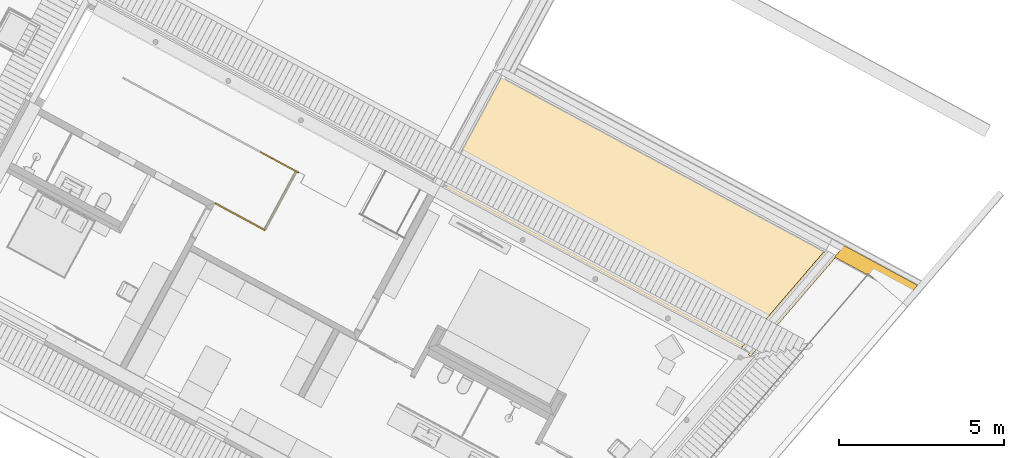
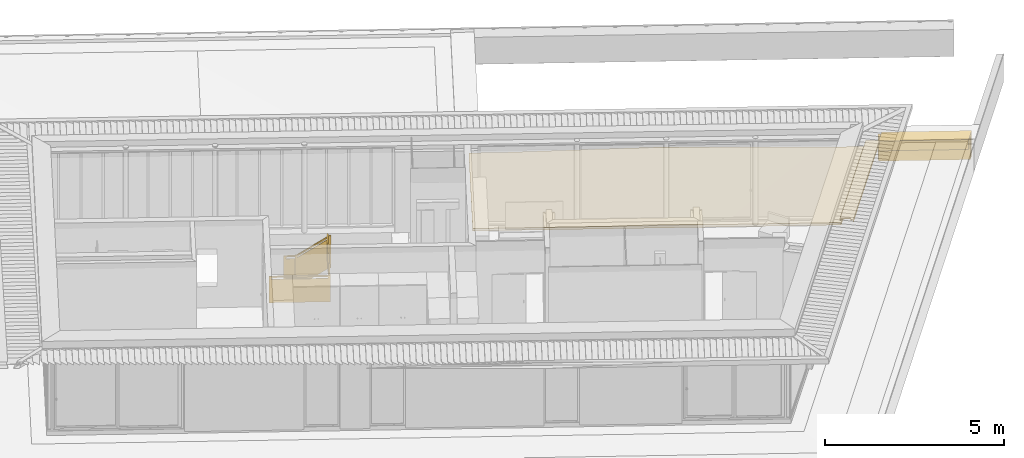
# One storey, part 13 of 41: 4 railings, 3 coverings.
"""IFC2X3 building model written with IfcOpenShell, lengths in metres."""

from ifc_helpers import new_model, entity, si_unit, converted_unit, derived_unit, money_unit, direction, frame, origin_with_axes, place, context, subcontext, project, spatial, polyline, outline, composite_profile, extrude, boolean, faceted_brep, material, material_list, type_object, element, save


model = new_model("IFC2X3")

# Units and contexts
model_context = context("Model", 3, precision=1e-05, world=origin_with_axes(), true_north=direction((0.0, 1.0)))
body_context = subcontext(model_context, "Body", "Model", "MODEL_VIEW")
ifc_project = project(units=[si_unit("LENGTHUNIT", "METRE"), si_unit("AREAUNIT", "SQUARE_METRE"), si_unit("VOLUMEUNIT", "CUBIC_METRE"), converted_unit("PLANEANGLEUNIT", "DEGREE", entity("IfcPlaneAngleMeasure", 0.0174532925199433), si_unit("PLANEANGLEUNIT", "RADIAN"), dimensions=[0, 0, 0, 0, 0, 0, 0]), money_unit("EUR"), converted_unit("TIMEUNIT", "Year", entity("IfcTimeMeasure", 31556926.0), si_unit("TIMEUNIT", "SECOND"), dimensions=[0, 0, 1, 0, 0, 0, 0]), si_unit("MASSUNIT", "GRAM", prefix="KILO"), si_unit("THERMODYNAMICTEMPERATUREUNIT", "DEGREE_CELSIUS"), si_unit("LUMINOUSINTENSITYUNIT", "LUMEN"), si_unit("ENERGYUNIT", "JOULE", prefix="MEGA"), derived_unit("THERMALCONDUCTANCEUNIT", [(si_unit("POWERUNIT", "WATT"), 1), (si_unit("LENGTHUNIT", "METRE"), -1), (si_unit("THERMODYNAMICTEMPERATUREUNIT", "KELVIN"), -1)]), derived_unit("SPECIFICHEATCAPACITYUNIT", [(si_unit("ENERGYUNIT", "JOULE"), 1), (si_unit("MASSUNIT", "GRAM", prefix="KILO"), -1), (si_unit("THERMODYNAMICTEMPERATUREUNIT", "KELVIN"), -1)]), derived_unit("MASSDENSITYUNIT", [(si_unit("MASSUNIT", "GRAM", prefix="KILO"), 1), (si_unit("VOLUMEUNIT", "CUBIC_METRE"), -1)])], contexts=[model_context])

# Site, building, storey
site_placement = place(None, frame((-3.949935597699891, 1.740105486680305, 0.0), z_axis=(0.0, 0.0, 1.0), x_axis=(0.8799804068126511, -0.475009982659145, 0.0)))
site = spatial("IfcSite", under=ifc_project, at=site_placement, Name="Gelände", CompositionType="ELEMENT")
building_placement = place(site_placement, origin_with_axes())
building = spatial("IfcBuilding", under=site, at=building_placement, Name="Gebäude", CompositionType="ELEMENT")
storey_placement = place(building_placement, frame((0.0, 0.0, 4.55), z_axis=(0.0, 0.0, 1.0), x_axis=(1.0, 0.0, 0.0)))
storey = spatial("IfcBuildingStorey", under=building, at=storey_placement, Name="Staffelgeschoss", CompositionType="ELEMENT", Elevation=4.55)

# Railings
ifc_material_1 = material(Name="Metall, Stahl lackiert")
ifc_material_2 = material(Name="Glas, Normalglas-50% durchlässig")
ifc_material_list_1 = material_list([ifc_material_1, ifc_material_1, ifc_material_1, ifc_material_1, ifc_material_1, ifc_material_2])
railing_type = type_object("IfcRailingType", Name="Geländerart", PredefinedType="NOTDEFINED")
railing_1_placement = place(storey_placement, frame((7.6330094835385, 8.87778210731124, 0.0), z_axis=(0.0, 0.0, 1.0), x_axis=(1.0, 0.0, 0.0)))
element("IfcRailing", 1, at=railing_1_placement, inside=storey, type_object=railing_type, material=ifc_material_list_1, Name="Geländer-005", PredefinedType="NOTDEFINED", context=body_context, shape_type="Brep", body=[
    faceted_brep([(5.662000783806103, 0.4398704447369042, 0.0), (5.702000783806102, 0.4398704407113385, 0.0), (5.702000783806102, 0.4398704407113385, 0.9000000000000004), (5.662000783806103, 0.4398704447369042, 0.9000000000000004), (5.662000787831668, 0.4798704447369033, 0.0), (5.702000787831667, 0.4798704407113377, 0.0), (5.702000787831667, 0.4798704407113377, 0.9000000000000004), (5.662000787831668, 0.4798704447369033, 0.9000000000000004)], [[[0, 1, 2, 3]], [[0, 4, 5, 1]], [[1, 5, 6, 2]], [[3, 2, 6, 7]], [[4, 0, 3, 7]], [[5, 4, 7, 6]]]),
    faceted_brep([(5.702000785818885, 0.4598704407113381, 0.9000000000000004), (5.702000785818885, 0.4598704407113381, 0.8600000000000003), (5.702000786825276, 0.4698704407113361, 0.8600000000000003), (5.702000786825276, 0.4698704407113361, 0.0), (5.702000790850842, 0.509870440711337, 0.0), (5.702000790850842, 0.509870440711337, 0.9000000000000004), (5.662000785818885, 0.4598704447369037, 0.9000000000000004), (5.662000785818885, 0.4598704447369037, 0.8600000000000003), (5.662000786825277, 0.4698704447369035, 0.8600000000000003), (5.662000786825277, 0.4698704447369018, 0.0), (5.662000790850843, 0.5098704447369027, 0.0), (5.662000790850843, 0.5098704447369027, 0.9000000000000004)], [[[0, 1, 2, 3, 4, 5]], [[0, 6, 7, 1]], [[1, 7, 8, 2]], [[2, 8, 9, 3]], [[4, 3, 9, 10]], [[11, 5, 4, 10]], [[6, 0, 5, 11]], [[7, 6, 11, 10, 9, 8]]]),
    faceted_brep([(5.662000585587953, -1.529722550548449, 0.0), (5.702000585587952, -1.529722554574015, 0.0), (5.702000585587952, -1.529722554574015, 0.9000000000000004), (5.662000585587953, -1.529722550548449, 0.9000000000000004), (5.662000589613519, -1.48972255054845, 0.0), (5.702000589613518, -1.489722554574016, 0.0), (5.702000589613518, -1.489722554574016, 0.9000000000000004), (5.662000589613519, -1.48972255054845, 0.9000000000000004)], [[[0, 1, 2, 3]], [[0, 4, 5, 1]], [[1, 5, 6, 2]], [[3, 2, 6, 7]], [[4, 0, 3, 7]], [[5, 4, 7, 6]]]),
    faceted_brep([(5.662000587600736, -1.50972255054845, 0.9000000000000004), (5.662000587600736, -1.50972255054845, 0.8600000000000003), (5.662000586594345, -1.519722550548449, 0.8600000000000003), (5.662000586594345, -1.519722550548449, 0.0), (5.662000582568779, -1.559722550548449, 0.0), (5.662000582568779, -1.559722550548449, 0.9000000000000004), (5.702000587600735, -1.509722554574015, 0.9000000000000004), (5.702000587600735, -1.509722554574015, 0.8600000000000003), (5.702000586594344, -1.519722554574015, 0.8600000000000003), (5.702000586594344, -1.519722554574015, 0.0), (5.702000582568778, -1.559722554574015, 0.0), (5.702000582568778, -1.559722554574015, 0.9000000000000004)], [[[0, 1, 2, 3, 4, 5]], [[0, 6, 7, 1]], [[1, 7, 8, 2]], [[2, 8, 9, 3]], [[4, 3, 9, 10]], [[11, 5, 4, 10]], [[6, 0, 5, 11]], [[7, 6, 11, 10, 9, 8]]]),
    faceted_brep([(5.662000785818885, 0.4598704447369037, 0.9000000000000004), (5.662000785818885, 0.4598704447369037, 0.8600000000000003), (5.662000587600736, -1.50972255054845, 0.8600000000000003), (5.662000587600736, -1.50972255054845, 0.9000000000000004), (5.702000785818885, 0.4598704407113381, 0.9000000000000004), (5.702000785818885, 0.4598704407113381, 0.8600000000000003), (5.702000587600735, -1.509722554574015, 0.8600000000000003), (5.702000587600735, -1.509722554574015, 0.9000000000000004)], [[[0, 1, 2, 3]], [[0, 4, 5, 1]], [[1, 5, 6, 2]], [[3, 2, 6, 7]], [[4, 0, 3, 7]], [[5, 4, 7, 6]]]),
    faceted_brep([(5.692000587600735, -1.509722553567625, 0.0), (5.692000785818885, 0.4598704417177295, 0.0), (5.692000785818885, 0.4598704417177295, 0.8000000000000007), (5.692000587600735, -1.509722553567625, 0.8000000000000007), (5.672000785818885, 0.4598704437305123, 0.0), (5.672000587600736, -1.509722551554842, 0.0), (5.672000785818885, 0.4598704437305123, 0.8000000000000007), (5.672000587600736, -1.509722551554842, 0.8000000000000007)], [[[0, 1, 2, 3]], [[4, 1, 0, 5]], [[6, 2, 1, 4]], [[3, 2, 6, 7]], [[0, 3, 7, 5]], [[6, 4, 5, 7]]]),
])
ifc_material_3 = material(Name="Glas, Normalglas")
ifc_material_list_2 = material_list([ifc_material_1, ifc_material_1, ifc_material_1, ifc_material_1, ifc_material_1, ifc_material_3])
railing_2_placement = place(storey_placement, frame((11.89277090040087, 1.656058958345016, 0.0), z_axis=(0.0, 0.0, 1.0), x_axis=(0.0, 1.0, 0.0)))
element("IfcRailing", 2, at=railing_2_placement, inside=storey, type_object=railing_type, material=ifc_material_list_2, Name="Geländer-005", PredefinedType="NOTDEFINED", context=body_context, shape_type="Brep", body=[
    faceted_brep([(5.662000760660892, 0.2098882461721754, 0.0), (5.702000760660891, 0.2098882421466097, 0.0), (5.702000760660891, 0.2098882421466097, 0.9000000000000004), (5.662000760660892, 0.2098882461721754, 0.9000000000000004), (5.662000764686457, 0.2498882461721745, 0.0), (5.702000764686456, 0.2498882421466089, 0.0), (5.702000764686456, 0.2498882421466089, 0.9000000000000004), (5.662000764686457, 0.2498882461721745, 0.9000000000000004)], [[[0, 1, 2, 3]], [[0, 4, 5, 1]], [[1, 5, 6, 2]], [[3, 2, 6, 7]], [[4, 0, 3, 7]], [[5, 4, 7, 6]]]),
    faceted_brep([(5.702000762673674, 0.2298882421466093, 0.9000000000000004), (5.702000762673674, 0.2298882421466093, 0.8600000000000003), (5.702000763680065, 0.2398882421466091, 0.8600000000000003), (5.702000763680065, 0.2398882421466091, 0.0), (5.702000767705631, 0.2798882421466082, 0.0), (5.702000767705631, 0.2798882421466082, 0.9000000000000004), (5.662000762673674, 0.229888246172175, 0.9000000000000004), (5.662000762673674, 0.229888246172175, 0.8600000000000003), (5.662000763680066, 0.239888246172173, 0.8600000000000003), (5.662000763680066, 0.239888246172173, 0.0), (5.662000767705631, 0.2798882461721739, 0.0), (5.662000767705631, 0.2798882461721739, 0.9000000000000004)], [[[0, 1, 2, 3, 4, 5]], [[0, 6, 7, 1]], [[1, 7, 8, 2]], [[2, 8, 9, 3]], [[4, 3, 9, 10]], [[11, 5, 4, 10]], [[6, 0, 5, 11]], [[7, 6, 11, 10, 9, 8]]]),
    faceted_brep([(5.662000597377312, -1.412577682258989, 0.0), (5.702000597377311, -1.412577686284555, 0.0), (5.702000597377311, -1.412577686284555, 0.9000000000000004), (5.662000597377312, -1.412577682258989, 0.9000000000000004), (5.662000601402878, -1.37257768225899, 0.0), (5.702000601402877, -1.372577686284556, 0.0), (5.702000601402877, -1.372577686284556, 0.9000000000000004), (5.662000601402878, -1.37257768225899, 0.9000000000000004)], [[[0, 1, 2, 3]], [[0, 4, 5, 1]], [[1, 5, 6, 2]], [[3, 2, 6, 7]], [[4, 0, 3, 7]], [[5, 4, 7, 6]]]),
    faceted_brep([(5.662000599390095, -1.39257768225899, 0.9000000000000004), (5.662000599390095, -1.39257768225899, 0.8600000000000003), (5.662000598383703, -1.40257768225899, 0.8600000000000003), (5.662000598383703, -1.40257768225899, 0.0), (5.662000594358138, -1.442577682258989, 0.0), (5.662000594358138, -1.442577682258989, 0.9000000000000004), (5.702000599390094, -1.392577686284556, 0.9000000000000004), (5.702000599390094, -1.392577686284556, 0.8600000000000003), (5.702000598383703, -1.402577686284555, 0.8600000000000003), (5.702000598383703, -1.402577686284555, 0.0), (5.702000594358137, -1.442577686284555, 0.0), (5.702000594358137, -1.442577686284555, 0.9000000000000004)], [[[0, 1, 2, 3, 4, 5]], [[0, 6, 7, 1]], [[1, 7, 8, 2]], [[2, 8, 9, 3]], [[4, 3, 9, 10]], [[11, 5, 4, 10]], [[6, 0, 5, 11]], [[7, 6, 11, 10, 9, 8]]]),
    faceted_brep([(5.662000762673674, 0.229888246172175, 0.9000000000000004), (5.662000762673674, 0.229888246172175, 0.8600000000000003), (5.662000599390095, -1.39257768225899, 0.8600000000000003), (5.662000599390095, -1.39257768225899, 0.9000000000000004), (5.702000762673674, 0.2298882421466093, 0.9000000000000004), (5.702000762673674, 0.2298882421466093, 0.8600000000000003), (5.702000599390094, -1.392577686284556, 0.8600000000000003), (5.702000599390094, -1.392577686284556, 0.9000000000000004)], [[[0, 1, 2, 3]], [[0, 4, 5, 1]], [[1, 5, 6, 2]], [[3, 2, 6, 7]], [[4, 0, 3, 7]], [[5, 4, 7, 6]]]),
    faceted_brep([(5.692000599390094, -1.392577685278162, 0.0), (5.692000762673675, 0.2298882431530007, 0.0), (5.692000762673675, 0.2298882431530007, 0.8000000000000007), (5.692000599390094, -1.392577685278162, 0.8000000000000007), (5.672000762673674, 0.2298882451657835, 0.0), (5.672000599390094, -1.39257768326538, 0.0), (5.672000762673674, 0.2298882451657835, 0.8000000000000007), (5.672000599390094, -1.39257768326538, 0.8000000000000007)], [[[0, 1, 2, 3]], [[4, 1, 0, 5]], [[6, 2, 1, 4]], [[3, 2, 6, 7]], [[0, 3, 7, 5]], [[6, 4, 5, 7]]]),
])
railing_3_placement = place(storey_placement, frame((12.13697142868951, 9.357849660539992, -0.9200000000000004), z_axis=(0.0, 0.0, 1.0), x_axis=(1.0, 0.0, 0.0)))
element("IfcRailing", 3, at=railing_3_placement, inside=storey, type_object=railing_type, material=ifc_material_list_1, Name="Geländer-005", PredefinedType="NOTDEFINED", context=body_context, shape_type="Brep", body=[
    faceted_brep([(0.02000085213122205, -0.01999914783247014, 0.0), (0.01999914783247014, 0.02000085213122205, 0.0), (0.01999914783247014, 0.02000085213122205, 1.1), (0.02000085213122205, -0.01999914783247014, 1.1), (-0.01999914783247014, -0.02000085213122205, 0.0), (-0.02000085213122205, 0.01999914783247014, 0.0), (-0.02000085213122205, 0.01999914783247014, 1.1), (-0.01999914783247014, -0.02000085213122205, 1.1)], [[[0, 1, 2, 3]], [[0, 4, 5, 1]], [[1, 5, 6, 2]], [[3, 2, 6, 7]], [[4, 0, 3, 7]], [[5, 4, 7, 6]]]),
    faceted_brep([(-8.521493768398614e-07, 0.01999999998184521, 1.1), (-8.521493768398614e-07, 0.01999999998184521, 1.06), (-0.01000085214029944, 0.01999957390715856, 1.06), (-0.01000085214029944, 0.01999957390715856, 0.0), (-0.05000085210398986, 0.01999786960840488, 0.0), (-0.05000085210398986, 0.01999786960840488, 1.1), (8.521493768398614e-07, -0.01999999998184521, 1.1), (8.521493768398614e-07, -0.01999999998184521, 1.06), (-0.009999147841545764, -0.02000042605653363, 1.06), (-0.009999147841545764, -0.02000042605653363, 0.0), (-0.04999914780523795, -0.02000213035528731, 0.0), (-0.04999914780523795, -0.02000213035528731, 1.1)], [[[0, 1, 2, 3, 4, 5]], [[0, 6, 7, 1]], [[1, 7, 8, 2]], [[2, 8, 9, 3]], [[4, 3, 9, 10]], [[11, 5, 4, 10]], [[6, 0, 5, 11]], [[7, 6, 11, 10, 9, 8]]]),
    faceted_brep([(0.3122272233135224, -0.01998669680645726, 0.0), (0.3122255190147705, 0.02001330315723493, 0.0), (0.3122255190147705, 0.02001330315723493, 1.1), (0.3122272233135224, -0.01998669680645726, 1.1), (0.2722272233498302, -0.01998840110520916, 0.0), (0.2722255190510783, 0.02001159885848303, 0.0), (0.2722255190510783, 0.02001159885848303, 1.1), (0.2722272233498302, -0.01998840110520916, 1.1)], [[[0, 1, 2, 3]], [[0, 4, 5, 1]], [[1, 5, 6, 2]], [[3, 2, 6, 7]], [[4, 0, 3, 7]], [[5, 4, 7, 6]]]),
    faceted_brep([(0.2922272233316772, -0.01998754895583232, 1.1), (0.2922272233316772, -0.01998754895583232, 1.06), (0.3022272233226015, -0.01998712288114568, 1.06), (0.3022272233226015, -0.01998712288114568, 0.0), (0.342227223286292, -0.019985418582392, 0.0), (0.342227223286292, -0.019985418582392, 1.1), (0.2922255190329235, 0.02001245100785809, 1.1), (0.2922255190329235, 0.02001245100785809, 1.06), (0.3022255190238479, 0.02001287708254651, 1.06), (0.3022255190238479, 0.02001287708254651, 0.0), (0.3422255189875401, 0.02001458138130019, 0.0), (0.3422255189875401, 0.02001458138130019, 1.1)], [[[0, 1, 2, 3, 4, 5]], [[0, 6, 7, 1]], [[1, 7, 8, 2]], [[2, 8, 9, 3]], [[4, 3, 9, 10]], [[11, 5, 4, 10]], [[6, 0, 5, 11]], [[7, 6, 11, 10, 9, 8]]]),
    faceted_brep([(8.521493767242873e-07, -0.01999999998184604, 1.1), (8.521493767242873e-07, -0.01999999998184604, 1.06), (0.2922272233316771, -0.01998754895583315, 1.06), (0.2922272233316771, -0.01998754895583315, 1.1), (-8.521493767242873e-07, 0.01999999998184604, 1.1), (-8.521493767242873e-07, 0.01999999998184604, 1.06), (0.2922255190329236, 0.02001245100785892, 1.06), (0.2922255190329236, 0.02001245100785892, 1.1)], [[[0, 1, 2, 3]], [[0, 4, 5, 1]], [[1, 5, 6, 2]], [[3, 2, 6, 7]], [[4, 0, 3, 7]], [[5, 4, 7, 6]]]),
    faceted_brep([(0.2922259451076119, 0.01001245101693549, 0.0), (-4.260746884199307e-07, 0.009999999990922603, 0.0), (-4.260746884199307e-07, 0.009999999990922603, 0.9999999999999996), (0.2922259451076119, 0.01001245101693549, 0.9999999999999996), (4.260746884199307e-07, -0.00999999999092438, 0.0), (0.2922267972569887, -0.009987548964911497, 0.0), (4.260746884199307e-07, -0.00999999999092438, 0.9999999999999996), (0.2922267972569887, -0.009987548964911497, 0.9999999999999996)], [[[0, 1, 2, 3]], [[4, 1, 0, 5]], [[6, 2, 1, 4]], [[3, 2, 6, 7]], [[0, 3, 7, 5]], [[6, 4, 5, 7]]]),
])
railing_4_placement = place(storey_placement, frame((12.20061858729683, 9.357791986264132, -0.8980000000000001), z_axis=(0.0, 0.0, 1.0), x_axis=(1.0, 0.0, 0.0)))
element("IfcRailing", 4, at=railing_4_placement, inside=storey, type_object=railing_type, material=ifc_material_list_1, Name="Geländer-005", PredefinedType="NOTDEFINED", context=body_context, shape_type="Brep", body=[
    faceted_brep([(0.268580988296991, -0.01999907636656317, 0.01404279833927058), (0.2685791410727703, 0.02000092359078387, 0.01404279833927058), (0.2685791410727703, 0.02000092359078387, 1.114042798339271), (0.268580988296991, -0.01999907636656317, 1.114042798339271), (0.2285809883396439, -0.02000092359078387, -0.01404279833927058), (0.2285791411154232, 0.01999907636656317, -0.01404279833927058), (0.2285791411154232, 0.01999907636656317, 1.085957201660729), (0.2285809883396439, -0.02000092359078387, 1.085957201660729)], [[[0, 1, 2, 3]], [[0, 4, 5, 1]], [[1, 5, 6, 2]], [[3, 2, 6, 7]], [[4, 0, 3, 7]], [[5, 4, 7, 6]]]),
    faceted_brep([(0.2485791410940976, 0.01999999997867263, 1.1), (0.2612195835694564, 0.02000058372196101, 1.06), (0.2385791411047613, 0.0199995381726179, 1.06), (0.2385791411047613, 0.0199995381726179, 0.0), (0.1985791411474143, 0.01999769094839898, 0.0), (0.1985791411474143, 0.01999769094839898, 1.1), (0.2485809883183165, -0.01999999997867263, 1.1), (0.2612214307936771, -0.01999941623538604, 1.06), (0.238580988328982, -0.02000046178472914, 1.06), (0.238580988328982, -0.02000046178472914, 0.0), (0.198580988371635, -0.02000230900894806, 0.0), (0.198580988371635, -0.02000230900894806, 1.1)], [[[0, 1, 2, 3, 4, 5]], [[0, 6, 7, 1]], [[1, 7, 8, 2]], [[2, 8, 9, 3]], [[4, 3, 9, 10]], [[11, 5, 4, 10]], [[6, 0, 5, 11]], [[7, 6, 11, 10, 9, 8]]]),
    faceted_brep([(1.17772287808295, -0.01995709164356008, 0.6523876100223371), (1.177721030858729, 0.02004290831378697, 0.6523876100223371), (1.177721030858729, 0.02004290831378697, 1.752387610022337), (1.17772287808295, -0.01995709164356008, 1.752387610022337), (1.137722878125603, -0.01995893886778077, 0.6243020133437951), (1.137721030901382, 0.02004106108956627, 0.6243020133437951), (1.137721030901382, 0.02004106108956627, 1.724302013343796), (1.137722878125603, -0.01995893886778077, 1.724302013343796)], [[[0, 1, 2, 3]], [[0, 4, 5, 1]], [[1, 5, 6, 2]], [[3, 2, 6, 7]], [[4, 0, 3, 7]], [[5, 4, 7, 6]]]),
    faceted_brep([(1.157722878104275, -0.01995801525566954, 1.738344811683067), (1.170363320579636, -0.01995743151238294, 1.698344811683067), (1.167722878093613, -0.01995755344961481, 1.698344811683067), (1.167722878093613, -0.01995755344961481, 0.6383448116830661), (1.20772287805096, -0.01995570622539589, 0.6383448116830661), (1.20772287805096, -0.01995570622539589, 1.738344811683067), (1.157721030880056, 0.02004198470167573, 1.738344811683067), (1.170361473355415, 0.0200425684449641, 1.698344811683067), (1.167721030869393, 0.02004244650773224, 1.698344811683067), (1.167721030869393, 0.02004244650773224, 0.6383448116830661), (1.20772103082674, 0.02004429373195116, 0.6383448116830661), (1.20772103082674, 0.02004429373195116, 1.738344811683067)], [[[0, 1, 2, 3, 4, 5]], [[0, 6, 7, 1]], [[1, 7, 8, 2]], [[2, 8, 9, 3]], [[4, 3, 9, 10]], [[11, 5, 4, 10]], [[6, 0, 5, 11]], [[7, 6, 11, 10, 9, 8]]]),
    faceted_brep([(0.2485809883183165, -0.01999999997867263, 1.1), (0.2612214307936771, -0.01999941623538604, 1.06), (1.170363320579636, -0.01995743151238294, 1.698344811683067), (1.157722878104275, -0.01995801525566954, 1.738344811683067), (0.2485791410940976, 0.01999999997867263, 1.1), (0.2612195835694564, 0.02000058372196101, 1.06), (1.170361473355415, 0.0200425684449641, 1.698344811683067), (1.157721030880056, 0.02004198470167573, 1.738344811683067)], [[[0, 1, 2, 3]], [[0, 4, 5, 1]], [[1, 5, 6, 2]], [[3, 2, 6, 7]], [[4, 0, 3, 7]], [[5, 4, 7, 6]]]),
    faceted_brep([(1.157721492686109, 0.01004198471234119, 0.6383448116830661), (0.2485796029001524, 0.009999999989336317, 0.0), (0.2485796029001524, 0.009999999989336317, 0.9999999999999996), (1.157721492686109, 0.01004198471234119, 1.638344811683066), (0.2485805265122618, -0.009999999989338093, 0.0), (1.15772241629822, -0.00995801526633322, 0.6383448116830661), (0.2485805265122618, -0.009999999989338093, 0.9999999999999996), (1.15772241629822, -0.00995801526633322, 1.638344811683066)], [[[0, 1, 2, 3]], [[4, 1, 0, 5]], [[6, 2, 1, 4]], [[3, 2, 6, 7]], [[0, 3, 7, 5]], [[6, 4, 5, 7]]]),
])

# Coverings
ifc_material_4 = material(Name="Dämmung, hart Mineralwolle")
covering_type_1 = type_object("IfcCoveringType", Name="Dämmung, hart Mineralwolle", PredefinedType="INSULATION")
covering_1_placement = place(storey_placement, frame((17.42749037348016, 11.03780067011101, -0.2599999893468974), z_axis=(0.0, 0.0, 1.0), x_axis=(1.0, 0.0, 0.0)))
element("IfcCovering", 5, at=covering_1_placement, inside=storey, type_object=covering_type_1, material=ifc_material_4, Name="Freifläche-005", PredefinedType="INSULATION", context=body_context, shape_type="Brep", body=[
    faceted_brep([(5.385245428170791, 0.0, 0.1159999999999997), (6.985245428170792, 0.0, 0.08399999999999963), (5.385245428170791, 3.785245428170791, 0.1159999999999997), (10.32187076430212, 0.0, 0.0), (10.32187076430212, 0.0, 0.08399999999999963), (3.785245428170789, 0.0, 0.08399999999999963), (0.0, 0.0, 0.08399999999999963), (0.0, 0.0, 0.0), (9.770490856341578, 3.785245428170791, 0.01999999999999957), (11.14870601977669, 3.785245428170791, 0.0), (11.14870601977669, 3.785245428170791, 0.01999999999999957), (11.03948783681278, 3.285245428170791, 0.01999999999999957), (10.27049085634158, 3.285245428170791, 0.01999999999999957), (0.0, 2.785245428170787, 0.01999999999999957), (0.0, 3.785245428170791, 0.01999999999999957), (0.0, 3.785245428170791, 0.0), (1.0, 3.785245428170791, 0.01999999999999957)], [[[0, 1, 2]], [[3, 4, 1, 0, 5, 6, 7]], [[8, 2, 1]], [[0, 2, 5]], [[9, 10, 11, 4, 3]], [[4, 11, 12, 1]], [[6, 5, 13]], [[7, 6, 13, 14, 15]], [[15, 9, 3, 7]], [[15, 14, 16, 2, 8, 10, 9]], [[8, 1, 12]], [[2, 16, 5]], [[10, 8, 12, 11]], [[13, 5, 16]], [[14, 13, 16]]]),
])
ifc_material_5 = material(Name="_SIWH - Dämmung, weich Mineralwolle")
ifc_material_6 = material(Name="_SIWH - Dämmung, hart Mineralwolle")
ifc_material_list_3 = material_list([ifc_material_5, ifc_material_6])
covering_type_2 = type_object("IfcCoveringType", Name="_SIWH - Attika1 AchseB EG 440 x 865", PredefinedType="INSULATION")
covering_2_placement = place(storey_placement, frame((28.90394795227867, 15.0830461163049, -0.3999999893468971), z_axis=(0.0, 0.0, 1.0), x_axis=(1.0, 0.0, 0.0)))
element("IfcCovering", 6, at=covering_2_placement, inside=storey, type_object=covering_type_2, material=ifc_material_list_3, Name="A-Wand059", PredefinedType="INSULATION", context=body_context, shape_type="CSG", body=[
    boolean("DIFFERENCE", boolean("DIFFERENCE", boolean("DIFFERENCE", extrude(composite_profile([outline(polyline([(4.999215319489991e-09, 0.2749999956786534), (4.999215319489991e-09, -0.5300000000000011), (0.1800000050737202, -0.5300000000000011), (0.1800000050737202, 0.2749999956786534), (4.999215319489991e-09, 0.2749999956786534)])), outline(polyline([(-0.2000000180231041, 0.0), (-0.2000000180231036, 0.2749999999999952), (4.999215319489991e-09, 0.2749999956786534), (0.1799999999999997, 0.2749999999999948), (0.1799999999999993, 0.3349999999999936), (-0.2600000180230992, 0.334999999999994), (-0.2600000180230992, 0.0), (-0.2000000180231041, 0.0)]))]), frame((0.0, 0.0, 0.0), z_axis=(1.0, 0.0, 0.0), x_axis=(0.0, 1.0, 0.0)), (0.0, 0.0, 1.0), 2.623436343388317), faceted_brep([(0.0, -0.2600000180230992, 0.3349999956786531), (0.0960997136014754, 0.1799999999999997, 0.3349999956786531), (0.0, 0.1799999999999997, 0.3349999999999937), (0.0960997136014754, 0.1799999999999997, 0.2749999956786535), (0.0, -0.2600000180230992, 0.2749999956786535), (0.01310450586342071, -0.2000000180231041, 0.2749999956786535), (0.05678619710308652, 4.99921526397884e-09, 0.2749999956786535), (0.0, 0.1799999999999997, 0.274999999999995), (0.0, 4.99921526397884e-09, 0.2749999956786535), (0.0, -0.2000000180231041, 0.2749999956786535)], [[[0, 1, 2]], [[3, 1, 0, 4, 5, 6]], [[1, 3, 7, 2]], [[4, 0, 2, 7, 8, 9]], [[9, 5, 4]], [[5, 9, 8, 6]], [[3, 6, 8, 7]]])), faceted_brep([(2.619068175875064, 0.1800000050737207, -0.5300000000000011), (2.619068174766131, 0.1799999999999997, 0.2749999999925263), (2.623436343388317, 0.1800000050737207, 0.2749999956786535), (2.623436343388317, 0.1800000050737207, -0.5300000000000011), (2.579754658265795, 4.99921526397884e-09, 0.2749999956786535), (2.579754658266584, 4.99921526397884e-09, -0.5300000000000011), (2.623436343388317, 4.99921526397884e-09, 0.2749999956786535), (2.623436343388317, 4.99921526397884e-09, -0.5300000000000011)], [[[0, 1, 2, 3]], [[4, 1, 0, 5]], [[1, 4, 6, 2]], [[2, 6, 7, 3]], [[5, 0, 3, 7]], [[4, 5, 7, 6]]])), faceted_brep([(2.619068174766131, 0.1799999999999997, 0.2749999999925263), (2.619068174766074, 0.1799999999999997, 0.3349999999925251), (2.623436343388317, 0.1799999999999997, 0.3349999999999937), (2.623436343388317, 0.1799999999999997, 0.274999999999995), (2.522968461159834, -0.2600000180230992, 0.3349999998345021), (2.579754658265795, 4.99921526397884e-09, 0.2749999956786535), (2.536072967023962, -0.2000000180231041, 0.2749999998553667), (2.536072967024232, -0.2000000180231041, 0.0), (2.522968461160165, -0.2600000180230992, 0.0), (2.623436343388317, -0.2600000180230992, 0.3349999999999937), (2.623436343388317, -0.2600000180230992, 0.0), (2.623436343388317, -0.2000000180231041, 0.0), (2.623436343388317, -0.2000000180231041, 0.274999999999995), (2.623436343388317, 4.99921526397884e-09, 0.2749999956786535)], [[[0, 1, 2, 3]], [[4, 1, 0, 5, 6, 7, 8]], [[1, 4, 9, 2]], [[10, 11, 12, 13, 3, 2, 9]], [[5, 0, 3, 13]], [[6, 5, 13, 12]], [[7, 6, 12, 11]], [[8, 7, 11, 10]], [[4, 8, 10, 9]]])),
])
ifc_material_7 = material(Name="_SIWH - Holz, Bauholz")
ifc_material_8 = material(Name="_SIWH - Metall, Aluminium")
ifc_material_list_4 = material_list([ifc_material_7, ifc_material_8])
covering_type_3 = type_object("IfcCoveringType", Name="_SIWH - Attikablech3 Achse3+4' EG 380 x 92", PredefinedType="ROOFING")
covering_3_placement = place(storey_placement, frame((28.0020816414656, 10.97590602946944, -0.3999999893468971), z_axis=(0.0, 0.0, 1.0), x_axis=(0.2134295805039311, 0.9769584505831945, 0.0)))
element("IfcCovering", 7, at=covering_3_placement, inside=storey, type_object=covering_type_3, material=ifc_material_list_4, Name="Wand-028", PredefinedType="ROOFING", context=body_context, shape_type="CSG", body=[
    boolean("DIFFERENCE", boolean("DIFFERENCE", boolean("DIFFERENCE", boolean("DIFFERENCE", extrude(composite_profile([outline(polyline([(-0.2600000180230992, 0.3599999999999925), (-0.2600000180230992, 0.334999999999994), (0.06000000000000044, 0.334999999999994), (0.06000000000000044, 0.3599999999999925), (-0.2600000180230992, 0.3599999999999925)])), outline(polyline([(0.09000000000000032, 0.2849999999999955), (0.09000000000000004, 0.3768999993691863), (-0.2900000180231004, 0.3768999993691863), (-0.2900000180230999, 0.2849999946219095), (-0.2880000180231, 0.2869999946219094), (-0.2702236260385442, 0.3047763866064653), (-0.2716378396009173, 0.3061906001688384), (-0.2880000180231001, 0.2898284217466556), (-0.2880000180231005, 0.3749687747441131), (0.08800000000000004, 0.374828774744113), (0.08799999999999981, 0.2898284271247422), (0.07141421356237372, 0.3064142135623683), (0.07000000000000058, 0.3049999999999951), (0.09000000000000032, 0.2849999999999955)]))]), frame((0.0, 0.0, 0.0), z_axis=(-1.0, 0.0, 0.0), x_axis=(0.0, -1.0, 0.0)), (0.0, 0.0, -1.0), 3.992358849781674), faceted_brep([(0.0, -4.362255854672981e-05, 0.3768999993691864), (0.0633624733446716, -4.030342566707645e-05, 0.3768999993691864), (0.0, 0.2900000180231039, 0.3768999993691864), (0.06336241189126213, -4.030342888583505e-05, 0.3748615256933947), (0.0, -4.362255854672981e-05, 0.3748615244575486), (0.0, 0.2900000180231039, 0.2849999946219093), (0.0004369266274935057, 0.2880000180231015, 0.3749687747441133), (0.0004369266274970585, 0.2880000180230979, 0.2898284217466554), (0.004011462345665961, 0.2716378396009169, 0.3061906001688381), (0.004320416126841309, 0.2702236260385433, 0.3047763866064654), (0.0004369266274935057, 0.2880000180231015, 0.2869999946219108), (0.0, 0.2880000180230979, 0.3749687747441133), (0.0, 0.2880000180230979, 0.2869999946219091), (0.0, 0.2702236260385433, 0.3047763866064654), (0.0, 0.2716378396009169, 0.3061906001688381), (0.0, 0.2880000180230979, 0.2898284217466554)], [[[0, 1, 2]], [[3, 1, 0, 4]], [[5, 2, 1, 3, 6, 7, 8, 9, 10]], [[11, 4, 0, 2, 5, 12, 13, 14, 15]], [[6, 3, 4, 11]], [[15, 7, 6, 11]], [[14, 8, 7, 15]], [[13, 9, 8, 14]], [[12, 10, 9, 13]], [[12, 5, 10]]])), faceted_brep([(0.06336196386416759, -4.030345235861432e-05, 0.3599999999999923), (0.006553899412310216, 0.2600000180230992, 0.3599999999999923), (0.0, 0.2600000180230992, 0.3599999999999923), (0.0, -4.362255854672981e-05, 0.3599999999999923), (0.06336121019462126, -4.030349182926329e-05, 0.3349999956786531), (0.006553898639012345, 0.2600000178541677, 0.3349999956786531), (0.0, 0.2600000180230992, 0.3349999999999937), (0.0, -4.362255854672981e-05, 0.3349999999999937)], [[[0, 1, 2, 3]], [[1, 0, 4, 5]], [[1, 5, 6, 2]], [[7, 3, 2, 6]], [[0, 3, 7, 4]], [[4, 7, 6, 5]]])), faceted_brep([(3.99235884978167, 0.2900000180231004, 0.3768999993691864), (3.843812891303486, 0.2900000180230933, 0.3768999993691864), (3.926824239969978, -0.09000000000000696, 0.3768999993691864), (3.992358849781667, -0.09000000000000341, 0.3768999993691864), (3.99235884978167, 0.2900000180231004, 0.2849999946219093), (3.843812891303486, 0.2900000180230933, 0.2849999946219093), (3.922455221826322, -0.07000000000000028, 0.3049999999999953), (3.926824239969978, -0.09000000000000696, 0.2849999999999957), (3.844249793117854, 0.2880000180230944, 0.2869999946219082), (3.848133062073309, 0.2702236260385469, 0.3047763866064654), (3.847824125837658, 0.2716378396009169, 0.3061906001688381), (3.84424979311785, 0.2880000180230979, 0.2898284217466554), (3.84424979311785, 0.2880000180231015, 0.3749687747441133), (3.926387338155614, -0.08800000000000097, 0.3748287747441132), (3.926387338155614, -0.08800000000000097, 0.2898284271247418), (3.92276415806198, -0.07141421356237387, 0.306414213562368), (3.992358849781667, -0.09000000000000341, 0.2849999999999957), (3.99235884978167, -0.07000000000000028, 0.3049999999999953), (3.992358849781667, -0.07141421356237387, 0.306414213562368), (3.992358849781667, -0.08800000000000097, 0.2898284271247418), (3.992358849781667, -0.08800000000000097, 0.3748287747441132), (3.99235884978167, 0.2880000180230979, 0.3749687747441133), (3.99235884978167, 0.2880000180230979, 0.2898284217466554), (3.992358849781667, 0.2716378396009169, 0.3061906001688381), (3.99235884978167, 0.2702236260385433, 0.3047763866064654), (3.99235884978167, 0.2880000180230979, 0.2869999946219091)], [[[0, 1, 2, 3]], [[4, 5, 1, 0]], [[6, 7, 2, 1, 5, 8, 9, 10, 11, 12, 13, 14, 15]], [[3, 2, 7, 16]], [[0, 3, 16, 17, 18, 19, 20, 21, 22, 23, 24, 25, 4]], [[25, 8, 5, 4]], [[16, 7, 6, 17]], [[24, 9, 8, 25]], [[23, 10, 9, 24]], [[22, 11, 10, 23]], [[21, 12, 11, 22]], [[20, 13, 12, 21]], [[19, 14, 13, 20]], [[18, 15, 14, 19]], [[17, 6, 15, 18]]])), faceted_brep([(3.850366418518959, 0.2600000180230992, 0.3599999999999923), (3.920270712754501, -0.06000000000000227, 0.3599999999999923), (3.99235884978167, -0.06000000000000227, 0.3599999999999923), (3.992358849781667, 0.2600000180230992, 0.3599999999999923), (3.920270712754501, -0.06000000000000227, 0.3349999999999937), (3.850366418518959, 0.2600000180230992, 0.3349999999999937), (3.99235884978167, -0.06000000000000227, 0.3349999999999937), (3.992358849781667, 0.2600000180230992, 0.3349999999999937)], [[[0, 1, 2, 3]], [[4, 1, 0, 5]], [[1, 4, 6, 2]], [[6, 7, 3, 2]], [[5, 0, 3, 7]], [[4, 5, 7, 6]]])),
])

save(model, "model.ifc")
